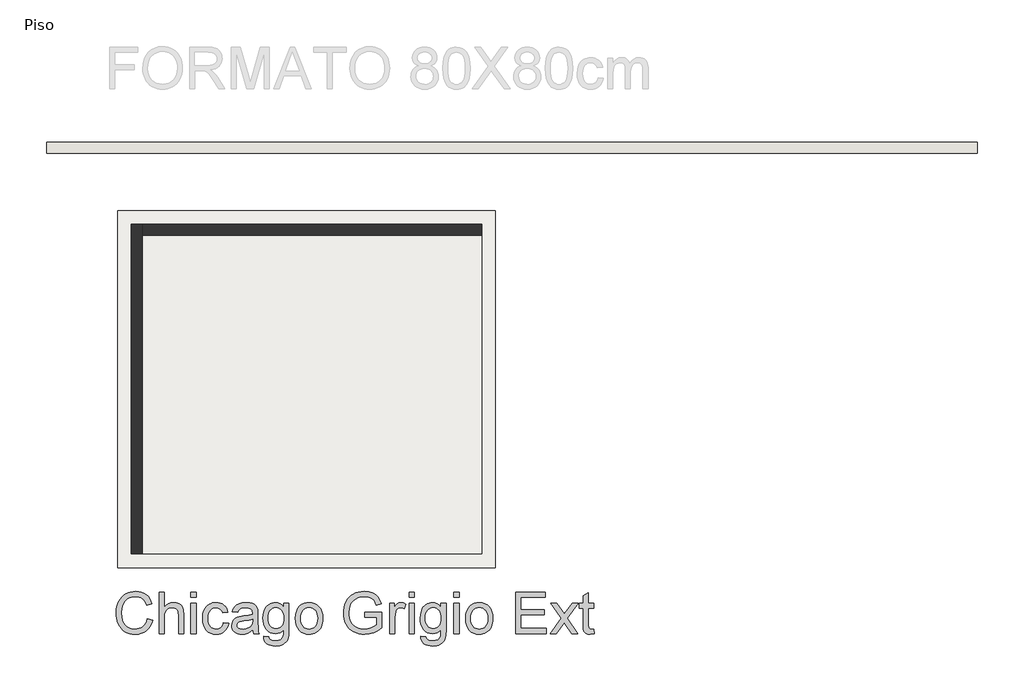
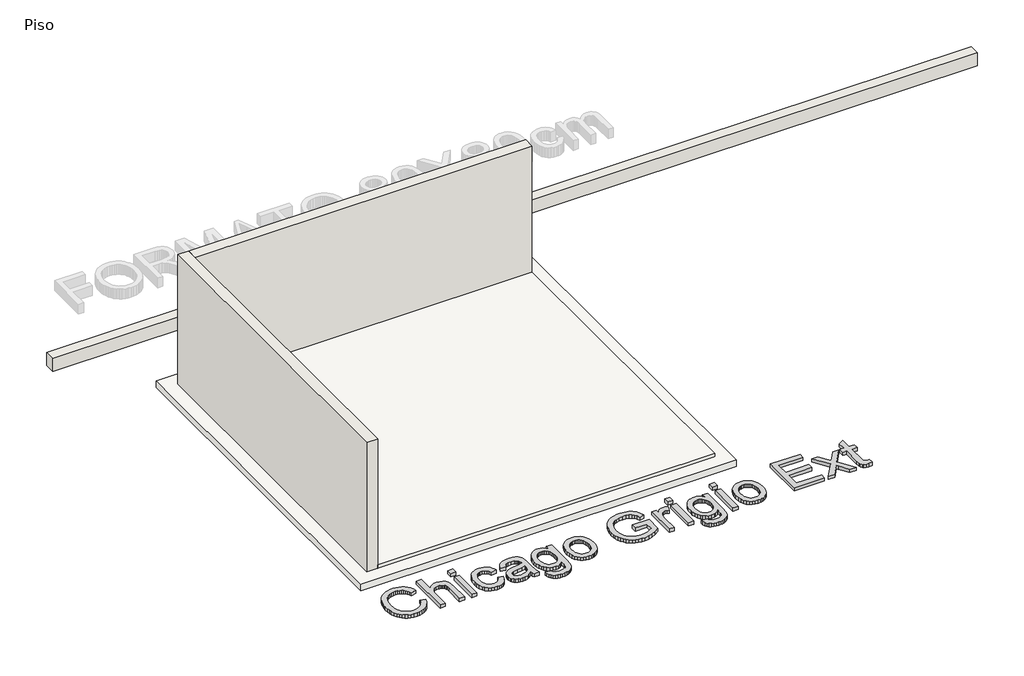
# One storey, part 1 of 2: 3 walls, 2 slabs, 1 proxy.
"""IFC4 building model written with IfcOpenShell, lengths in millimetres."""

from ifc_helpers import new_model, si_unit, frame, origin, origin_with_axes, place, context, project, spatial, polyline, outline, extrude, faceted_brep, element, save

model = new_model("IFC4")

# Units and contexts
model_context = context("Model", 3, world=origin())
ifc_project = project(units=[si_unit("LENGTHUNIT", "METRE", prefix="MILLI")], contexts=[model_context])

# Site, building, storey
site = spatial("IfcSite", under=ifc_project)
building = spatial("IfcBuilding", under=site)
storey = spatial("IfcBuildingStorey", under=building, Name="Piso", Elevation=0.0)

# Proxy
placement = place(None, origin())
element("IfcBuildingElementProxy", 1, Name="600mm Arial", ObjectType="600mm Arial", at=placement, inside=storey, context=model_context, shape_type="SweptSolid", body=[
    extrude(outline(polyline([(93149.273371, -4985.5102873), (93224.6156037, -5004.9344567), (93209.7071858, -5051.7888273), (93189.8507551, -5092.7294948), (93165.0463116, -5127.7564593), (93135.2938552, -5156.8697207), (93101.2647707, -5179.7565793), (93063.6304426, -5196.1043354), (93022.3908709, -5205.9129891), (92977.5460557, -5209.1825404), (92931.602193, -5206.708534), (92890.1556877, -5199.2865147), (92853.2065398, -5186.9164826), (92820.7547493, -5169.5984377), (92792.3542593, -5147.5898973), (92767.5590128, -5121.1483789), (92746.3690099, -5090.2738825), (92728.7842506, -5054.966408), (92714.9748802, -5016.7526657), (92705.1110442, -4977.159366), (92699.1927426, -4936.1865088), (92697.2199754, -4893.8340941), (92699.45026, -4848.3914707), (92706.1411138, -4805.9470855), (92717.2925367, -4766.5009385), (92732.9045289, -4730.0530299), (92752.6276024, -4697.2057662), (92776.1122692, -4668.5615544), (92803.3585295, -4644.1203943), (92834.3663832, -4623.882286), (92868.082768, -4608.0127765), (92903.4546219, -4596.6774125), (92940.4819447, -4589.8761941), (92979.1647365, -4587.6091213), (93022.2575137, -4590.5429802), (93061.7726385, -4599.344557), (93097.7101109, -4614.0138515), (93130.0699309, -4634.5508639), (93158.3186696, -4660.4129682), (93181.9228981, -4691.0575384), (93200.8826164, -4726.4845745), (93215.1978246, -4766.6940766), (93139.855592, -4784.6467179), (93127.9913976, -4755.0184218), (93113.7359703, -4729.703542), (93097.08931, -4708.7020786), (93078.0514168, -4692.0140316), (93056.511926, -4679.2991101), (93032.360473, -4670.2170233), (93005.5970578, -4664.7677713), (92976.2216805, -4662.9513539), (92942.4225222, -4664.9655079), (92911.5112376, -4671.0079696), (92883.4878266, -4681.0787392), (92858.3522893, -4695.1778167), (92836.4219238, -4712.6706056), (92818.0140285, -4732.9225094), (92803.1286033, -4755.9335282), (92791.7656481, -4781.703662), (92777.363068, -4836.8491731), (92772.562208, -4893.6869413), (92778.2459848, -4963.2902148), (92785.3507058, -4994.5601844), (92795.2973153, -5023.4757092), (92808.2467615, -5049.4619736), (92824.3599929, -5071.9441621), (92843.6370094, -5090.9222745), (92866.0778112, -5106.3963109), (92890.5925476, -5118.4030595), (92916.0913684, -5126.9793085), (92942.5742735, -5132.125058), (92970.041263, -5133.8403078), (93002.7965561, -5131.5042571), (93032.9306901, -5124.4961051), (93060.4436648, -5112.8158517), (93085.3354803, -5096.463497), (93107.0175254, -5075.5126174), (93124.9011889, -5050.0367893), (93138.9864708, -5020.0360126), (93149.273371, -4985.5102873)])), origin_with_axes(), (0.0, 0.0, 1.0), 50.0),
    extrude(outline(polyline([(93318.7933944, -5199.7647613), (93318.7933944, -4597.0269004), (93394.135627, -4597.0269004), (93394.135627, -4818.6390143), (93421.8095501, -4787.608168), (93452.8863817, -4765.4432778), (93487.3661217, -4752.1443437), (93525.2487701, -4747.7113656), (93570.7557729, -4752.5490139), (93609.861629, -4767.0619586), (93640.653352, -4790.1097656), (93661.2179555, -4820.5520007), (93672.8062384, -4862.3801835), (93676.6689993, -4919.5858338), (93676.6689993, -5199.7647613), (93601.3267667, -5199.7647613), (93601.3267667, -4927.3849321), (93599.8276476, -4901.9458921), (93595.3302902, -4880.2224603), (93587.8346945, -4862.2146366), (93577.3408606, -4847.9224211), (93564.0971088, -4837.0423111), (93548.3517594, -4829.270804), (93530.1048124, -4824.6078997), (93509.3562679, -4823.0535982), (93477.5160812, -4827.247453), (93447.6256691, -4839.8290172), (93422.8672109, -4859.5842804), (93406.4228857, -4885.2992318), (93397.2074417, -4919.4754692), (93394.135627, -4964.61459), (93394.135627, -5199.7647613), (93318.7933944, -5199.7647613)])), origin_with_axes(), (0.0, 0.0, 1.0), 50.0),
    extrude(outline(polyline([(93780.2645692, -4672.369133), (93780.2645692, -4597.0269004), (93855.6068018, -4597.0269004), (93855.6068018, -4672.369133), (93780.2645692, -4672.369133)])), origin_with_axes(), (0.0, 0.0, 1.0), 50.0),
    extrude(outline(polyline([(93780.2645692, -5199.7647613), (93780.2645692, -4757.1291447), (93855.6068018, -4757.1291447), (93855.6068018, -5199.7647613), (93780.2645692, -5199.7647613)])), origin_with_axes(), (0.0, 0.0, 1.0), 50.0),
    extrude(outline(polyline([(94251.153523, -5039.662517), (94326.4957556, -5049.0802961), (94318.3011842, -5084.6314924), (94305.4896937, -5116.0900015), (94288.0612842, -5143.4558234), (94266.0159556, -5166.7289581), (94240.28261, -5185.3024004), (94211.7901495, -5198.5691448), (94180.538574, -5206.5291915), (94146.5278836, -5209.1825404), (94104.2720379, -5205.4807278), (94066.3847909, -5194.3752901), (94032.8661426, -5175.8662272), (94003.716093, -5149.9535391), (93980.1210616, -5117.1246696), (93963.2674677, -5077.8670622), (93953.1553113, -5032.1807169), (93949.7845925, -4980.0656338), (93955.5419458, -4913.0191402), (93962.7386373, -4882.848218), (93972.8140054, -4854.912179), (93985.8370281, -4829.7720432), (94001.8766831, -4807.9888305), (94020.9329704, -4789.5625411), (94043.0058901, -4774.4931749), (94067.0975623, -4762.7761333), (94092.210107, -4754.4068179), (94118.3435242, -4749.3852287), (94145.497814, -4747.7113656), (94178.9244918, -4750.0106281), (94209.1597932, -4756.9084155), (94236.2037184, -4768.4047279), (94260.0562673, -4784.4995651), (94280.3127696, -4804.8250454), (94296.5685553, -4829.0132866), (94308.8236243, -4857.0642887), (94317.0779765, -4888.9780518), (94241.7357439, -4898.3958308), (94228.0689278, -4865.5255746), (94206.7869544, -4841.9627328), (94179.067046, -4827.7808819), (94146.0864252, -4823.0535982), (94120.4864368, -4825.3804519), (94097.3972431, -4832.3610127), (94076.818844, -4843.9952808), (94058.7512395, -4860.2832561), (94044.0405582, -4881.6020178), (94033.5329287, -4908.3286447), (94027.2283511, -4940.463137), (94025.1268252, -4978.0054946), (94027.1823658, -5016.1134708), (94033.3489878, -5048.6204436), (94043.626691, -5075.526413), (94058.0154755, -5096.831379), (94075.7243951, -5113.0227854), (94095.9625033, -5124.5880756), (94118.7298003, -5131.5272497), (94144.026286, -5133.8403078), (94183.0401716, -5128.0645604), (94199.9121596, -5120.8448763), (94215.0275111, -5110.7373185), (94227.9631617, -5097.6315224), (94238.2960473, -5081.4171234), (94246.0261677, -5062.0941217), (94251.153523, -5039.662517)])), origin_with_axes(), (0.0, 0.0, 1.0), 50.0),
    extrude(outline(polyline([(94674.9535814, -5143.2580868), (94638.9563282, -5174.1233862), (94601.8922172, -5194.3201078), (94562.9151198, -5205.4669322), (94521.1789075, -5209.1825404), (94487.632668, -5206.9476573), (94458.215904, -5200.2430079), (94432.9286153, -5189.0685923), (94411.7708021, -5173.4244104), (94395.064361, -5154.3037437), (94383.1311888, -5132.6998736), (94375.9712854, -5108.6127999), (94373.584651, -5082.0425228), (94377.1898945, -5050.8093414), (94388.0056252, -5022.4456396), (94404.6890737, -4998.1654279), (94425.8974707, -4979.182717), (94450.8214759, -4964.8353192), (94478.6517488, -4954.4610469), (94543.8404384, -4943.1302815), (94620.8749281, -4931.2109048), (94674.512123, -4917.231389), (94674.9535814, -4900.45597), (94669.7664453, -4866.8315557), (94663.2825251, -4854.3787501), (94654.2050369, -4844.8322123), (94638.5148698, -4835.3040687), (94619.4034002, -4828.4982518), (94570.9165532, -4823.0535982), (94526.0349498, -4826.6772359), (94494.6914038, -4837.5481488), (94473.3174599, -4857.6528999), (94458.3446627, -4888.9780518), (94383.0024301, -4879.5602727), (94396.080635, -4838.3574892), (94415.5967748, -4805.9838737), (94443.3718655, -4781.2254154), (94481.2269228, -4762.8681038), (94527.5248719, -4751.5005502), (94580.6286379, -4747.7113656), (94631.5619001, -4751.0590918), (94671.9369491, -4761.1022702), (94702.3791842, -4776.2038261), (94723.5140048, -4794.7266846), (94737.5303088, -4817.6273388), (94746.6169941, -4845.8622819), (94750.2958141, -4911.7867355), (94750.2958141, -5005.5230678), (94754.1217868, -5136.4154817), (94759.7871695, -5168.7707032), (94769.1313722, -5199.7647613), (94693.7891396, -5199.7647613), (94681.7226101, -5173.5715632), (94674.9535814, -5143.2580868)]), holes=[polyline([(94674.9535814, -4992.5736216), (94624.3330189, -5005.1183976), (94553.4053702, -5015.6766109), (94488.5845627, -5027.8902931), (94471.7171732, -5036.2412144), (94459.2275795, -5047.7559209), (94451.5020576, -5061.5514957), (94448.9268836, -5076.7450221), (94454.537084, -5099.1490356), (94471.3676853, -5117.5063472), (94499.0508054, -5129.7568176), (94537.2185624, -5133.8403078), (94577.6855819, -5129.3337533), (94613.4437118, -5115.81409), (94642.4328131, -5095.89328), (94662.5927464, -5072.1832854), (94671.5322789, -5047.7559209), (94674.512123, -5013.9107773), (94674.9535814, -4992.5736216)])]), origin_with_axes(), (0.0, 0.0, 1.0), 50.0),
    extrude(outline(polyline([(94835.0558257, -5237.4358776), (94910.3980584, -5246.8536567), (94918.7121914, -5270.3981044), (94934.8254228, -5286.5849122), (94966.5000626, -5299.1664764), (95007.9603635, -5303.3603311), (95052.1797793, -5298.6146534), (95070.0404502, -5292.6825562), (95085.0684297, -5284.3776202), (95107.8771134, -5261.5689365), (95121.8566292, -5231.1083073), (95125.9401193, -5198.6979035), (95127.0069771, -5143.2580868), (95101.9358191, -5167.9797569), (95073.9583934, -5185.6380927), (95043.0746999, -5196.2330941), (95009.2847387, -5199.7647613), (94967.9761891, -5195.65368), (94931.6064554, -5183.3204361), (94900.1755374, -5162.7650296), (94873.6834352, -5133.9874606), (94852.6635777, -5099.4617353), (94837.6493938, -5061.6618603), (94828.6408834, -5020.5878355), (94825.6380467, -4976.239661), (94831.0275179, -4915.4103731), (94847.1959316, -4859.4739158), (94859.1796876, -4834.2510065), (94873.5730706, -4812.0723207), (94890.3760808, -4792.9378584), (94909.588718, -4776.8476196), (94930.9028811, -4764.1005085), (94954.0104689, -4754.9954291), (94978.9114814, -4749.5323815), (95005.6059187, -4747.7113656), (95040.8398168, -4751.831644), (95072.8179592, -4764.192479), (95101.540346, -4784.7938707), (95127.0069771, -4813.6358192), (95127.0069771, -4757.1291447), (95202.3492097, -4757.1291447), (95202.3492097, -5139.2849613), (95197.1988618, -5227.5214578), (95190.7609269, -5260.3411303), (95181.747818, -5285.628419), (95169.9434045, -5306.0228771), (95155.1315556, -5324.164058), (95137.3122715, -5340.0519616), (95116.485552, -5353.6865881), (95092.8629294, -5364.6310774), (95066.6559358, -5372.4485698), (95037.8645712, -5377.1390653), (95006.4888355, -5378.7025637), (94969.5764758, -5376.4998703), (94936.3889213, -5369.89179), (94906.926172, -5358.8783227), (94881.1882279, -5343.4594686), (94860.3982967, -5323.6168335), (94845.7795859, -5299.3320233), (94837.3320956, -5270.605038), (94835.0558257, -5237.4358776)]), holes=[polyline([(94900.9802793, -4971.0893131), (94902.9898347, -5008.3419636), (94909.0185009, -5040.1959459), (94919.0662779, -5066.6512599), (94933.1331657, -5087.7079056), (94950.2350799, -5103.7705532), (94969.3879363, -5115.2438729), (94990.5917348, -5122.1278647), (95013.8464754, -5124.4225287), (95036.8712898, -5122.1416603), (95057.9739207, -5115.2990552), (95077.1543682, -5103.8947134), (95094.4126323, -5087.9286348), (95108.6726582, -5067.0789227), (95118.8583909, -5041.0236804), (95124.9698306, -5009.7629078), (95127.0069771, -4973.2966051), (95124.9100497, -4938.352414), (95118.6192676, -4907.9791568), (95108.1346308, -4882.1768334), (95093.4561392, -4860.9454437), (95075.8253945, -4844.3677613), (95056.4839986, -4832.5265596), (95035.4319515, -4825.4218386), (95012.669253, -4823.0535982), (94990.2882321, -4825.3850504), (94969.6454537, -4832.3794068), (94950.7409176, -4844.0366675), (94933.574624, -4860.3568325), (94919.3145982, -4881.2663254), (94909.1288655, -4906.6915698), (94903.0174258, -4936.6325657), (94900.9802793, -4971.0893131)])]), origin_with_axes(), (0.0, 0.0, 1.0), 50.0),
    extrude(outline(polyline([(95296.5270005, -4978.446953), (95300.6012936, -4921.1217411), (95312.8241729, -4871.7243862), (95333.1956384, -4830.2548883), (95361.71569, -4796.7132474), (95390.4288798, -4775.2749241), (95422.1219136, -4759.9618361), (95456.7947917, -4750.7739832), (95494.4475139, -4747.7113656), (95536.0135808, -4751.4407693), (95573.5973252, -4762.6289805), (95607.1987469, -4781.2759992), (95636.817846, -4807.3818252), (95660.9922916, -4840.063542), (95678.2597528, -4878.4382326), (95688.6202295, -4922.5058971), (95692.0737217, -4972.2665355), (95690.5470114, -5012.5955992), (95685.9668806, -5048.3813203), (95678.3333292, -5079.6236987), (95667.6463572, -5106.3227345), (95654.0393219, -5129.3843371), (95637.6455805, -5149.7144159), (95618.465133, -5167.3129708), (95596.4979794, -5182.1800019), (95572.5994452, -5193.9936125), (95547.6248563, -5202.4319058), (95521.5742125, -5207.4948817), (95494.4475139, -5209.1825404), (95452.2744417, -5205.4669322), (95414.3412094, -5194.3201078), (95380.6478172, -5175.742067), (95351.194265, -5149.73281), (95327.2773368, -5116.733795), (95310.1938166, -5077.1864805), (95299.9437045, -5031.0908665), (95296.5270005, -4978.446953)]), holes=[polyline([(95371.8692331, -4978.2998002), (95374.0489339, -5014.8442779), (95380.5880364, -5046.486728), (95391.4865405, -5073.2271505), (95406.7444462, -5095.0655455), (95425.3040929, -5112.029504), (95446.1078197, -5124.1466172), (95469.1556267, -5131.4168851), (95494.4475139, -5133.8403078), (95519.6106424, -5131.4030895), (95542.5664789, -5124.0914349), (95563.3150234, -5111.9053438), (95581.8562759, -5094.8448163), (95597.1141817, -5072.7902907), (95608.0126858, -5045.6222053), (95614.5517883, -5013.3405602), (95616.7314891, -4975.9453554), (95614.5379927, -4940.559706), (95607.9575035, -4909.7449904), (95596.9900215, -4883.5012086), (95581.6355468, -4861.8283605), (95563.0253163, -4844.864402), (95542.2905674, -4832.7472888), (95519.4312999, -4825.4770209), (95494.4475139, -4823.0535982), (95469.1556267, -4825.4678238), (95446.1078197, -4832.7105006), (95425.3040929, -4844.7816286), (95406.7444462, -4861.6812077), (95391.4865405, -4883.4552233), (95380.5880364, -4910.1496606), (95374.0489339, -4941.7645196), (95371.8692331, -4978.2998002)])]), origin_with_axes(), (0.0, 0.0, 1.0), 50.0),
    extrude(outline(polyline([(96304.2293617, -4964.3202844), (96304.2293617, -4888.9780518), (96549.0916177, -4888.9780518), (96549.0916177, -5114.2689856), (96489.5867049, -5155.6557101), (96428.2055941, -5185.3437871), (96365.0954378, -5203.2228521), (96300.4033889, -5209.1825404), (96257.1266707, -5206.8143), (96215.8825005, -5199.709579), (96176.6708784, -5187.8683773), (96139.4918042, -5171.2906949), (96105.5454931, -5150.2248521), (96076.0321601, -5124.9191694), (96050.951805, -5095.3736466), (96030.3044281, -5061.5882839), (96014.1774011, -5024.6437345), (96002.6580961, -4985.6206519), (95995.7465131, -4944.519036), (95993.4426522, -4901.3388868), (95995.7373161, -4858.1541391), (96002.6213079, -4816.4501164), (96014.0946277, -4776.2268188), (96030.1572753, -4737.4842462), (96050.5241422, -4701.9238528), (96074.91012, -4671.2470929), (96103.3152085, -4645.4539665), (96135.7394079, -4624.5444736), (96171.4791437, -4608.385257), (96209.8308417, -4596.8429594), (96250.7945019, -4589.9175808), (96294.3701242, -4587.6091213), (96356.4318168, -4592.9618044), (96412.2395155, -4609.0198534), (96437.1589221, -4620.7736832), (96459.2364403, -4634.6244403), (96478.4720702, -4650.5721248), (96494.8658116, -4668.6167367), (96521.2245565, -4712.6338174), (96540.4096026, -4768.3127574), (96470.9534819, -4787.8840795), (96455.4472558, -4748.1712181), (96436.5933035, -4718.2072296), (96411.6509043, -4695.6192751), (96377.8793371, -4678.0345157), (96337.6146527, -4666.7221444), (96293.1929018, -4662.9513539), (96241.1927818, -4667.01645), (96196.7342427, -4679.2117381), (96159.9828314, -4698.0105081), (96131.1040947, -4721.8860496), (96108.9392045, -4749.6059579), (96092.3293325, -4779.9378284), (96074.6709967, -4836.8123849), (96068.7848848, -4898.248678), (96070.5553169, -4935.8692106), (96075.8666132, -4970.2983668), (96084.7187737, -5001.5361467), (96097.1117984, -5029.5825503), (96112.8847389, -5054.3318116), (96131.8766469, -5075.6781643), (96154.0875224, -5093.6216086), (96179.5173653, -5108.1621445), (96206.9751577, -5119.3963409), (96235.2698817, -5127.4207669), (96264.4015372, -5132.2354226), (96294.3701242, -5133.8403078), (96346.5541852, -5129.0026595), (96397.4506593, -5114.4897148), (96441.651681, -5094.4953284), (96473.7493851, -5073.213355), (96473.7493851, -4964.3202844), (96304.2293617, -4964.3202844)])), origin_with_axes(), (0.0, 0.0, 1.0), 50.0),
    extrude(outline(polyline([(96662.1049666, -5199.7647613), (96662.1049666, -4757.1291447), (96728.0294201, -4757.1291447), (96728.0294201, -4822.6121398), (96752.3832082, -4784.6467179), (96774.8240099, -4762.2794926), (96797.338388, -4751.3533974), (96821.9129053, -4747.7113656), (96859.4368688, -4753.5239011), (96897.5494435, -4770.9615077), (96872.386315, -4838.504642), (96845.8988114, -4826.9163592), (96819.4113077, -4823.0535982), (96796.9153237, -4826.7692064), (96776.8105727, -4837.9160308), (96760.5685826, -4855.647943), (96749.6608814, -4879.1188143), (96740.5006198, -4921.2045145), (96737.4471992, -4967.1161875), (96737.4471992, -5199.7647613), (96662.1049666, -5199.7647613)])), origin_with_axes(), (0.0, 0.0, 1.0), 50.0),
    extrude(outline(polyline([(96944.6383389, -4672.369133), (96944.6383389, -4597.0269004), (97019.9805715, -4597.0269004), (97019.9805715, -4672.369133), (96944.6383389, -4672.369133)])), origin_with_axes(), (0.0, 0.0, 1.0), 50.0),
    extrude(outline(polyline([(96944.6383389, -5199.7647613), (96944.6383389, -4757.1291447), (97019.9805715, -4757.1291447), (97019.9805715, -5199.7647613), (96944.6383389, -5199.7647613)])), origin_with_axes(), (0.0, 0.0, 1.0), 50.0),
    extrude(outline(polyline([(97114.1583623, -5237.4358776), (97189.5005949, -5246.8536567), (97197.814728, -5270.3981044), (97213.9279594, -5286.5849122), (97245.6025991, -5299.1664764), (97287.0629, -5303.3603311), (97331.2823158, -5298.6146534), (97349.1429867, -5292.6825562), (97364.1709662, -5284.3776202), (97386.9796499, -5261.5689365), (97400.9591657, -5231.1083073), (97405.0426558, -5198.6979035), (97406.1095136, -5143.2580868), (97381.0383557, -5167.9797569), (97353.0609299, -5185.6380927), (97322.1772364, -5196.2330941), (97288.3872752, -5199.7647613), (97247.0787256, -5195.65368), (97210.7089919, -5183.3204361), (97179.2780739, -5162.7650296), (97152.7859718, -5133.9874606), (97131.7661143, -5099.4617353), (97116.7519303, -5061.6618603), (97107.74342, -5020.5878355), (97104.7405832, -4976.239661), (97110.1300544, -4915.4103731), (97126.2984681, -4859.4739158), (97138.2822241, -4834.2510065), (97152.6756072, -4812.0723207), (97169.4786173, -4792.9378584), (97188.6912545, -4776.8476196), (97210.0054176, -4764.1005085), (97233.1130054, -4754.9954291), (97258.0140179, -4749.5323815), (97284.7084552, -4747.7113656), (97319.9423533, -4751.831644), (97351.9204957, -4764.192479), (97380.6428825, -4784.7938707), (97406.1095136, -4813.6358192), (97406.1095136, -4757.1291447), (97481.4517462, -4757.1291447), (97481.4517462, -5139.2849613), (97476.3013983, -5227.5214578), (97469.8634634, -5260.3411303), (97460.8503545, -5285.628419), (97449.045941, -5306.0228771), (97434.2340922, -5324.164058), (97416.414808, -5340.0519616), (97395.5880886, -5353.6865881), (97371.965466, -5364.6310774), (97345.7584723, -5372.4485698), (97316.9671077, -5377.1390653), (97285.591372, -5378.7025637), (97248.6790123, -5376.4998703), (97215.4914578, -5369.89179), (97186.0287085, -5358.8783227), (97160.2907645, -5343.4594686), (97139.5008332, -5323.6168335), (97124.8821224, -5299.3320233), (97116.4346321, -5270.605038), (97114.1583623, -5237.4358776)]), holes=[polyline([(97180.0828158, -4971.0893131), (97182.0923712, -5008.3419636), (97188.1210374, -5040.1959459), (97198.1688144, -5066.6512599), (97212.2357022, -5087.7079056), (97229.3376164, -5103.7705532), (97248.4904728, -5115.2438729), (97269.6942713, -5122.1278647), (97292.9490119, -5124.4225287), (97315.9738263, -5122.1416603), (97337.0764572, -5115.2990552), (97356.2569048, -5103.8947134), (97373.5151689, -5087.9286348), (97387.7751947, -5067.0789227), (97397.9609274, -5041.0236804), (97404.0723671, -5009.7629078), (97406.1095136, -4973.2966051), (97404.0125863, -4938.352414), (97397.7218041, -4907.9791568), (97387.2371673, -4882.1768334), (97372.5586757, -4860.9454437), (97354.9279311, -4844.3677613), (97335.5865352, -4832.5265596), (97314.534488, -4825.4218386), (97291.7717895, -4823.0535982), (97269.3907686, -4825.3850504), (97248.7479902, -4832.3794068), (97229.8434542, -4844.0366675), (97212.6771606, -4860.3568325), (97198.4171347, -4881.2663254), (97188.231402, -4906.6915698), (97182.1199623, -4936.6325657), (97180.0828158, -4971.0893131)])]), origin_with_axes(), (0.0, 0.0, 1.0), 50.0),
    extrude(outline(polyline([(97594.4650952, -4672.369133), (97594.4650952, -4597.0269004), (97669.8073278, -4597.0269004), (97669.8073278, -4672.369133), (97594.4650952, -4672.369133)])), origin_with_axes(), (0.0, 0.0, 1.0), 50.0),
    extrude(outline(polyline([(97594.4650952, -5199.7647613), (97594.4650952, -4757.1291447), (97669.8073278, -4757.1291447), (97669.8073278, -5199.7647613), (97594.4650952, -5199.7647613)])), origin_with_axes(), (0.0, 0.0, 1.0), 50.0),
    extrude(outline(polyline([(97763.9851185, -4978.446953), (97768.0594116, -4921.1217411), (97780.2822909, -4871.7243862), (97800.6537564, -4830.2548883), (97829.1738081, -4796.7132474), (97857.8869978, -4775.2749241), (97889.5800317, -4759.9618361), (97924.2529097, -4750.7739832), (97961.9056319, -4747.7113656), (98003.4716989, -4751.4407693), (98041.0554432, -4762.6289805), (98074.6568649, -4781.2759992), (98104.2759641, -4807.3818252), (98128.4504097, -4840.063542), (98145.7178708, -4878.4382326), (98156.0783475, -4922.5058971), (98159.5318398, -4972.2665355), (98158.0051295, -5012.5955992), (98153.4249986, -5048.3813203), (98145.7914472, -5079.6236987), (98135.1044753, -5106.3227345), (98121.49744, -5129.3843371), (98105.1036986, -5149.7144159), (98085.923251, -5167.3129708), (98063.9560974, -5182.1800019), (98040.0575633, -5193.9936125), (98015.0829743, -5202.4319058), (97989.0323306, -5207.4948817), (97961.9056319, -5209.1825404), (97919.7325597, -5205.4669322), (97881.7993275, -5194.3201078), (97848.1059353, -5175.742067), (97818.652383, -5149.73281), (97794.7354548, -5116.733795), (97777.6519347, -5077.1864805), (97767.4018226, -5031.0908665), (97763.9851185, -4978.446953)]), holes=[polyline([(97839.3273512, -4978.2998002), (97841.507052, -5014.8442779), (97848.0461544, -5046.486728), (97858.9446585, -5073.2271505), (97874.2025643, -5095.0655455), (97892.762211, -5112.029504), (97913.5659378, -5124.1466172), (97936.6137448, -5131.4168851), (97961.9056319, -5133.8403078), (97987.0687604, -5131.4030895), (98010.0245969, -5124.0914349), (98030.7731414, -5111.9053438), (98049.314394, -5094.8448163), (98064.5722997, -5072.7902907), (98075.4708039, -5045.6222053), (98082.0099063, -5013.3405602), (98084.1896071, -4975.9453554), (98081.9961107, -4940.559706), (98075.4156216, -4909.7449904), (98064.4481396, -4883.5012086), (98049.0936648, -4861.8283605), (98030.4834344, -4844.864402), (98009.7486854, -4832.7472888), (97986.8894179, -4825.4770209), (97961.9056319, -4823.0535982), (97936.6137448, -4825.4678238), (97913.5659378, -4832.7105006), (97892.762211, -4844.7816286), (97874.2025643, -4861.6812077), (97858.9446585, -4883.4552233), (97848.0461544, -4910.1496606), (97841.507052, -4941.7645196), (97839.3273512, -4978.2998002)])]), origin_with_axes(), (0.0, 0.0, 1.0), 50.0),
    extrude(outline(polyline([(98489.1541074, -5199.7647613), (98489.1541074, -4597.0269004), (98922.371945, -4597.0269004), (98922.371945, -4672.369133), (98564.49634, -4672.369133), (98564.49634, -4851.3069355), (98903.5363868, -4851.3069355), (98903.5363868, -4926.6491681), (98564.49634, -4926.6491681), (98564.49634, -5124.4225287), (98931.789724, -5124.4225287), (98931.789724, -5199.7647613), (98489.1541074, -5199.7647613)])), origin_with_axes(), (0.0, 0.0, 1.0), 50.0),
    extrude(outline(polyline([(98988.2963985, -5199.7647613), (99149.2815596, -4977.2697306), (98997.7141776, -4757.1291447), (99088.3603012, -4757.1291447), (99161.4952418, -4863.0791593), (99195.634691, -4913.1111107), (99225.2124034, -4872.2026328), (99308.5008871, -4757.1291447), (99399.1470107, -4757.1291447), (99239.9276832, -4977.2697306), (99393.2608988, -5199.7647613), (99302.6147752, -5199.7647613), (99210.3499708, -5066.0028678), (99193.427399, -5041.5755034), (99078.9425221, -5199.7647613), (98988.2963985, -5199.7647613)])), origin_with_axes(), (0.0, 0.0, 1.0), 50.0),
    extrude(outline(polyline([(99619.2875966, -5136.9305165), (99628.7053757, -5201.9720533), (99572.345854, -5209.1825404), (99536.1830539, -5206.0555434), (99509.2173037, -5196.6745525), (99490.1610163, -5182.2167901), (99477.7266049, -5163.8594786), (99470.8839998, -5132.3319916), (99468.6031314, -5078.3637029), (99468.6031314, -4832.4713773), (99412.0964569, -4832.4713773), (99412.0964569, -4757.1291447), (99468.6031314, -4757.1291447), (99468.6031314, -4649.5604493), (99543.945364, -4605.2674571), (99543.945364, -4757.1291447), (99619.2875966, -4757.1291447), (99619.2875966, -4832.4713773), (99543.945364, -4832.4713773), (99543.945364, -5076.1564109), (99547.9184896, -5115.0047496), (99560.7943594, -5128.7635362), (99571.6652723, -5132.5711149), (99586.4725226, -5133.8403078), (99619.2875966, -5136.9305165)])), origin_with_axes(), (0.0, 0.0, 1.0), 50.0),
])

# Slabs
element("IfcSlab", 2, ObjectType="5cm - Porcelanato Chicago Grigio Ext  - Externo 80x80", at=placement, inside=storey, context=model_context, shape_type="SweptSolid", body=[
    extrude(outline(polyline([(97995.1635395, 576.36887), (97995.1635395, -4044.23113), (93074.5635395, -4044.23113), (93074.5635395, 576.36887), (97995.1635395, 576.36887)])), origin_with_axes(), (0.0, 0.0, 1.0), 50.0),
])
element("IfcSlab", 3, ObjectType="CO02 - Concreto Estrutural Simples", at=placement, inside=storey, context=model_context, shape_type="SweptSolid", body=[
    extrude(outline(polyline([(98195.1635395, 935.16887), (98195.1635395, -4244.23113), (92715.7635395, -4244.23113), (92715.7635395, 935.16887), (98195.1635395, 935.16887)])), frame((0.0, 0.0, -100.0), z_axis=(0.0, 0.0, 1.0), x_axis=(1.0, 0.0, 0.0)), (0.0, 0.0, 1.0), 100.0),
])

# Walls
element("IfcWall", 4, ObjectType="CO01 - Bloco de Concreto 14cm / Pintura Branca Simples", at=placement, inside=storey, context=model_context, shape_type="SweptSolid", body=[
    extrude(outline(polyline([(105186.699165, 1765.7486968), (91686.699165, 1765.7486968), (91686.699165, 1924.5486968), (105186.699165, 1924.5486968), (105186.699165, 1765.7486968)])), origin_with_axes(), (0.0, 0.0, 1.0), 200.0),
])
element("IfcWall", 5, ObjectType="CO01 - Bloco de Concreto 14cm / Pintura Branca Simples", at=placement, inside=storey, context=model_context, shape_type="Brep", body=[
    faceted_brep([(93074.5635395, -4044.23113, 0.0), (93074.5635395, 576.36887, 0.0), (93074.5635395, 735.16887, 0.0), (93074.5635395, 735.16887, 2000.0), (93074.5635395, 576.36887, 2000.0), (93074.5635395, -4044.23113, 2000.0), (92915.7635395, -4044.23113, 0.0), (92915.7635395, -4044.23113, 2000.0), (92915.7635395, 735.16887, 2000.0), (92915.7635395, 735.16887, 0.0)], [[[0, 1, 2, 3, 4, 5]], [[6, 7, 8, 9]], [[2, 1, 0, 6, 9]], [[5, 4, 3, 8, 7]], [[0, 5, 7, 6]], [[3, 2, 9, 8]]]),
])
element("IfcWall", 6, ObjectType="CO01 - Bloco de Concreto 14cm / Pintura Branca Simples", at=placement, inside=storey, context=model_context, shape_type="SweptSolid", body=[
    extrude(outline(polyline([(97995.1635395, 576.36887), (93074.5635395, 576.36887), (93074.5635395, 735.16887), (97995.1635395, 735.16887), (97995.1635395, 576.36887)])), origin_with_axes(), (0.0, 0.0, 1.0), 2000.0),
])

save(model, "model.ifc")
